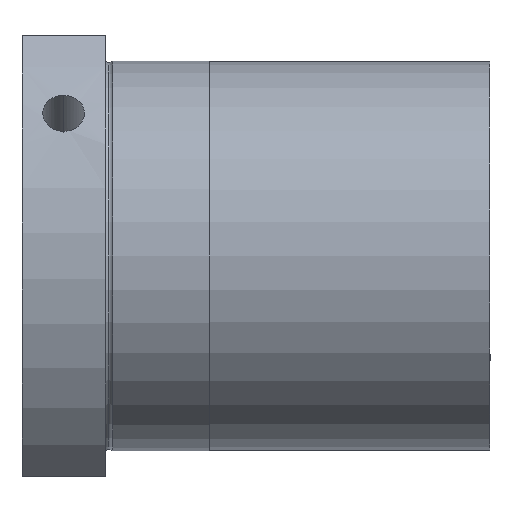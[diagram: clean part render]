
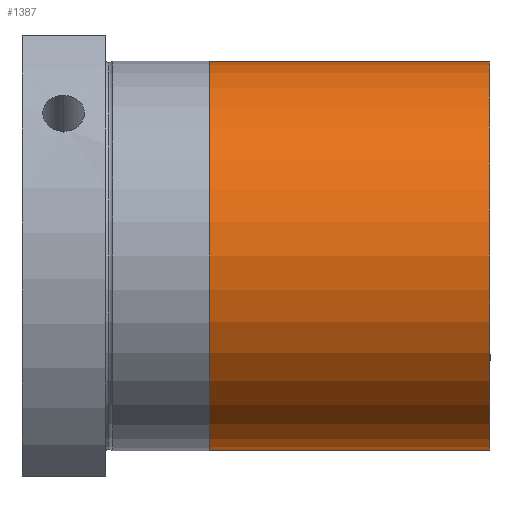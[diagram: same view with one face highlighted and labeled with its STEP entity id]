
A CAD part, front view. The second image highlights one B-rep face of the part: STEP entity #1387.
In plain terms, the highlighted cylindrical face has radius 37.35 mm (diameter 74.7 mm), a partial arc.
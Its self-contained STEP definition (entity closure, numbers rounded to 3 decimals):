
#27 = EDGE_CURVE ( 'NONE', #2182, #2712, #1527, .T. ) ;
#68 = AXIS2_PLACEMENT_3D ( 'NONE', #75, #2074, #369 ) ;
#75 = CARTESIAN_POINT ( 'NONE',  ( 61.864, 0., 0. ) ) ;
#101 = DIRECTION ( 'NONE',  ( 0., 0., 1. ) ) ;
#369 = DIRECTION ( 'NONE',  ( 0., 0., 1. ) ) ;
#637 = CARTESIAN_POINT ( 'NONE',  ( 61.864, 0., -37.35 ) ) ;
#832 = AXIS2_PLACEMENT_3D ( 'NONE', #1120, #3097, #1423 ) ;
#1008 = CIRCLE ( 'NONE', #68, 37.35 ) ;
#1073 = CARTESIAN_POINT ( 'NONE',  ( 7.864, 0., -37.35 ) ) ;
#1120 = CARTESIAN_POINT ( 'NONE',  ( 7.864, 0., 0. ) ) ;
#1123 = DIRECTION ( 'NONE',  ( -1., 0., 0. ) ) ;
#1291 = ORIENTED_EDGE ( 'NONE', *, *, #2797, .F. ) ;
#1310 = CARTESIAN_POINT ( 'NONE',  ( 7.864, 0., 37.35 ) ) ;
#1311 = VERTEX_POINT ( 'NONE', #637 ) ;
#1387 = ADVANCED_FACE ( 'NONE', ( #2084 ), #1995, .T. ) ;
#1423 = DIRECTION ( 'NONE',  ( 0., 0., 1. ) ) ;
#1435 = VERTEX_POINT ( 'NONE', #3463 ) ;
#1522 = ORIENTED_EDGE ( 'NONE', *, *, #27, .F. ) ;
#1527 = CIRCLE ( 'NONE', #832, 37.35 ) ;
#1918 = DIRECTION ( 'NONE',  ( -1., 0., 0. ) ) ;
#1995 = CYLINDRICAL_SURFACE ( 'NONE', #2002, 37.35 ) ;
#2002 = AXIS2_PLACEMENT_3D ( 'NONE', #2099, #3498, #101 ) ;
#2062 = LINE ( 'NONE', #2811, #3648 ) ;
#2074 = DIRECTION ( 'NONE',  ( -1., 0., 0. ) ) ;
#2084 = FACE_OUTER_BOUND ( 'NONE', #2926, .T. ) ;
#2099 = CARTESIAN_POINT ( 'NONE',  ( -100.792, 0., 0. ) ) ;
#2182 = VERTEX_POINT ( 'NONE', #1073 ) ;
#2314 = ORIENTED_EDGE ( 'NONE', *, *, #3486, .T. ) ;
#2491 = EDGE_CURVE ( 'NONE', #1311, #1435, #1008, .T. ) ;
#2543 = ORIENTED_EDGE ( 'NONE', *, *, #2491, .T. ) ;
#2652 = LINE ( 'NONE', #3602, #3242 ) ;
#2712 = VERTEX_POINT ( 'NONE', #1310 ) ;
#2797 = EDGE_CURVE ( 'NONE', #1311, #2182, #2062, .T. ) ;
#2811 = CARTESIAN_POINT ( 'NONE',  ( -100.792, 0., -37.35 ) ) ;
#2926 = EDGE_LOOP ( 'NONE', ( #1291, #2543, #2314, #1522 ) ) ;
#3097 = DIRECTION ( 'NONE',  ( -1., 0., 0. ) ) ;
#3242 = VECTOR ( 'NONE', #1918, 1000. ) ;
#3463 = CARTESIAN_POINT ( 'NONE',  ( 61.864, 0., 37.35 ) ) ;
#3486 = EDGE_CURVE ( 'NONE', #1435, #2712, #2652, .T. ) ;
#3498 = DIRECTION ( 'NONE',  ( -1., 0., 0. ) ) ;
#3602 = CARTESIAN_POINT ( 'NONE',  ( -100.792, 0., 37.35 ) ) ;
#3648 = VECTOR ( 'NONE', #1123, 1000. ) ;
